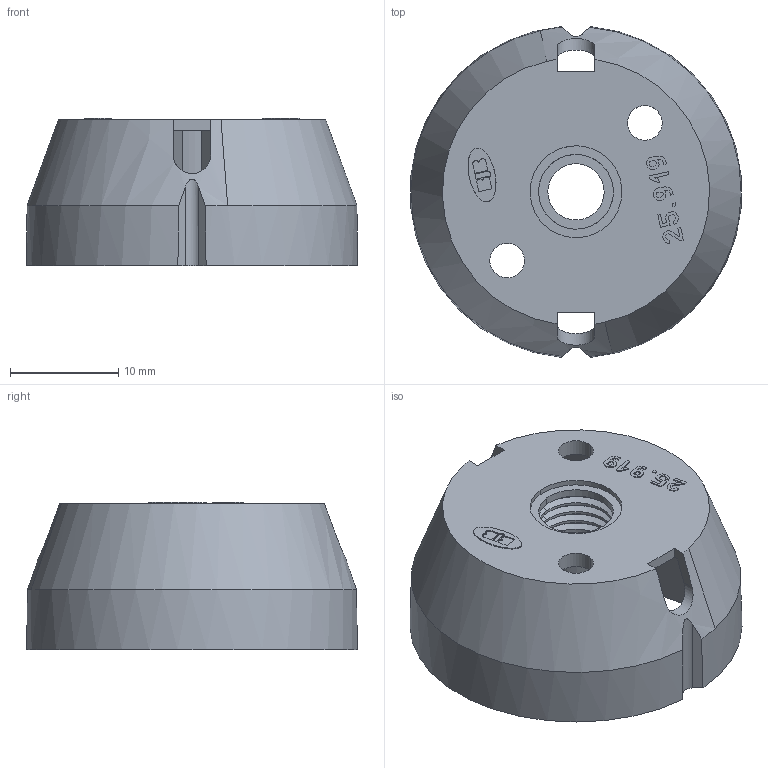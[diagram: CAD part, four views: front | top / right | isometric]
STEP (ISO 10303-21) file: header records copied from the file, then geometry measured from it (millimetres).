
FILE_DESCRIPTION((' '),'1');
FILE_NAME('00TY30LZ01.stp','2013-03-15 T11:24:03',(''),(''),'STEP Interface 2012.185 by CT CoreTechnologie','3D_Evolution2012.185 by CT CoreTechnologie','');
FILE_SCHEMA(('AP203_CONFIGURATION_CONTROLLED_3D_DESIGN_OF_MECHANICAL_PARTS_AND_ASSEMBLIES_MIM_LF'));
Length unit declared in the file: millimetre
Products named in the file (1): psf
Bounding box: 30.58 x 30.59 x 13.6 mm (x, y, z)
Volume: 2578.6 mm3; surface area: 4478.1 mm2
Topology: 1 solids, 1 shells, 303 faces, 856 edges, 568 vertices
Faces by surface type: plane 217, cylinder 52, bspline 34
Entity records: 10448 total; most frequent: CARTESIAN_POINT 2520, ORIENTED_EDGE 1712, DIRECTION 1552, EDGE_CURVE 856, VECTOR 664, LINE 664, VERTEX_POINT 568, AXIS2_PLACEMENT_3D 444
